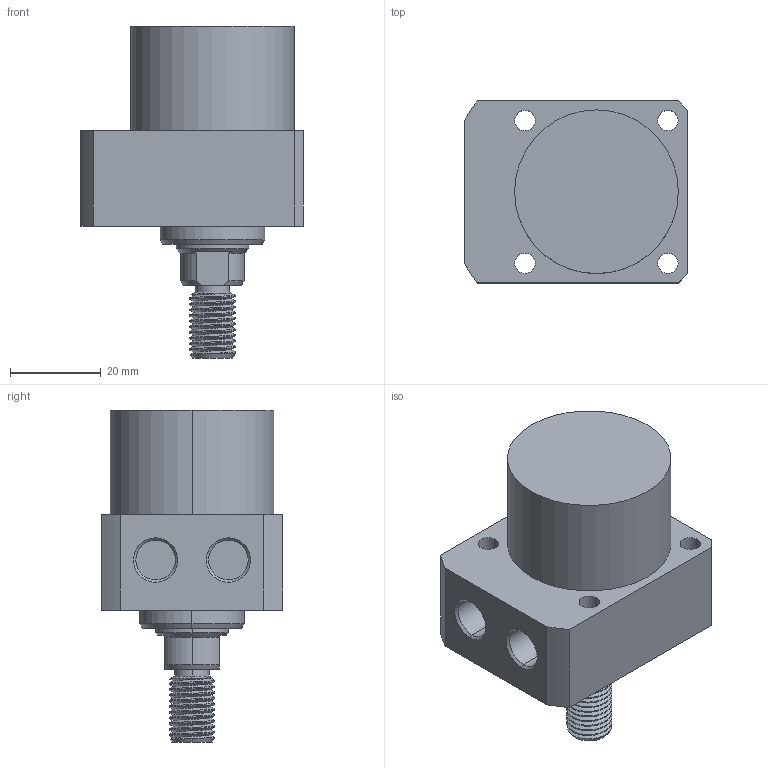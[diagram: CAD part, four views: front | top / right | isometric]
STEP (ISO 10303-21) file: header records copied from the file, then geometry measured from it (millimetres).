
FILE_DESCRIPTION (( 'STEP AP214' ), '1' );
FILE_NAME ('CLLR-036CT-015.STEP', '2020-01-08T10:13:05', ( 'Windows' ), ( 'Microsoft' ), 'SwSTEP 2.0', 'SolidWorks 2015', '' );
FILE_SCHEMA (( 'AUTOMOTIVE_DESIGN' ));
Length unit declared in the file: millimetre
Products named in the file (1): CLLR-036CT-015
Bounding box: 49 x 40 x 73 mm (x, y, z)
Volume: 65397.3 mm3; surface area: 13292.6 mm2
Topology: 1 solids, 1 shells, 89 faces, 223 edges, 144 vertices
Faces by surface type: cylinder 51, plane 21, cone 15, bspline 2
Entity records: 3972 total; most frequent: CARTESIAN_POINT 1838, ORIENTED_EDGE 446, DIRECTION 419, EDGE_CURVE 223, AXIS2_PLACEMENT_3D 164, VERTEX_POINT 144, EDGE_LOOP 105, VECTOR 91
